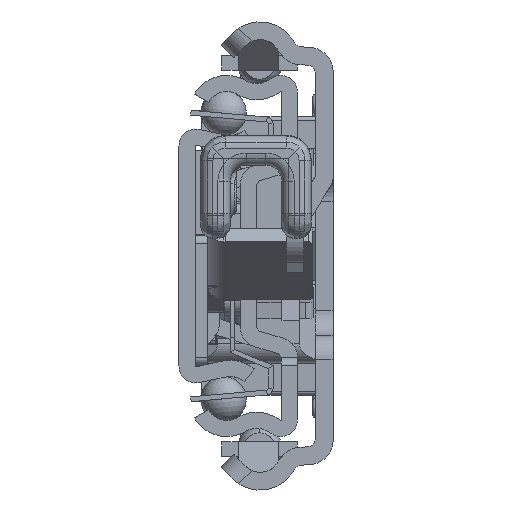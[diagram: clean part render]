
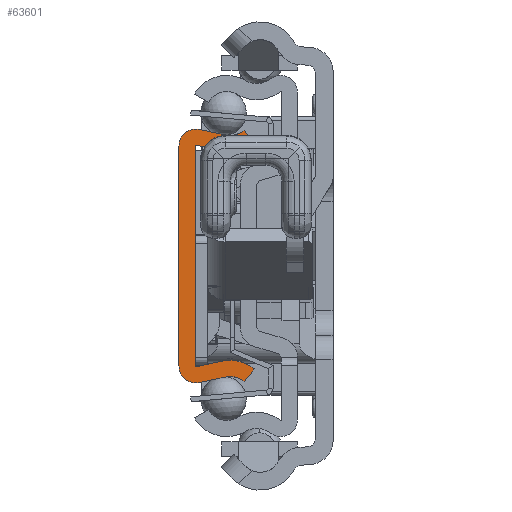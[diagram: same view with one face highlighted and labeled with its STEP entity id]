
A CAD part, left-side view. The second image highlights one B-rep face of the part: STEP entity #63601.
In plain terms, the highlighted planar face has unit normal (-1, 0, 0).
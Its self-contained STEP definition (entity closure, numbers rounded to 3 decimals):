
#58006=CARTESIAN_POINT('',(0.,-6.29,-17.65));
#58007=DIRECTION('',(-1.,0.,0.));
#58008=DIRECTION('',(0.,-0.629,0.778));
#58009=AXIS2_PLACEMENT_3D('',#58006,#58007,#58008);
#58011=DIRECTION('',(0.,0.977,-0.213));
#58012=VECTOR('',#58011,3.218);
#58013=CARTESIAN_POINT('',(0.,-5.692,-14.915));
#58014=LINE('',#58013,#58012);
#58015=CARTESIAN_POINT('',(0.,-2.1,-13.55));
#58016=DIRECTION('',(1.,0.,0.));
#58017=DIRECTION('',(0.,-0.213,-0.977));
#58018=AXIS2_PLACEMENT_3D('',#58015,#58016,#58017);
#58020=DIRECTION('',(0.,0.,1.));
#58021=VECTOR('',#58020,27.1);
#58022=CARTESIAN_POINT('',(0.,0.,-13.55));
#58023=LINE('',#58022,#58021);
#58024=CARTESIAN_POINT('',(0.,-2.1,13.55));
#58025=DIRECTION('',(1.,0.,0.));
#58026=DIRECTION('',(0.,1.,0.));
#58027=AXIS2_PLACEMENT_3D('',#58024,#58025,#58026);
#58029=DIRECTION('',(0.,-0.977,-0.213));
#58030=VECTOR('',#58029,3.218);
#58031=CARTESIAN_POINT('',(0.,-2.548,15.602));
#58032=LINE('',#58031,#58030);
#58033=CARTESIAN_POINT('',(0.,-6.29,17.65));
#58034=DIRECTION('',(-1.,0.,0.));
#58035=DIRECTION('',(0.,0.213,-0.977));
#58036=AXIS2_PLACEMENT_3D('',#58033,#58034,#58035);
#58038=DIRECTION('',(0.,-0.629,-0.778));
#58039=VECTOR('',#58038,2.);
#58040=CARTESIAN_POINT('',(0.,-8.05,15.472));
#58041=LINE('',#58040,#58039);
#58042=CARTESIAN_POINT('',(0.,-6.29,17.65));
#58043=DIRECTION('',(1.,0.,0.));
#58044=DIRECTION('',(0.,-0.629,-0.778));
#58045=AXIS2_PLACEMENT_3D('',#58042,#58043,#58044);
#58047=DIRECTION('',(0.,0.977,0.213));
#58048=VECTOR('',#58047,3.218);
#58049=CARTESIAN_POINT('',(0.,-5.265,12.961));
#58050=LINE('',#58049,#58048);
#58051=CARTESIAN_POINT('',(0.,-2.1,13.55));
#58052=DIRECTION('',(-1.,0.,0.));
#58053=DIRECTION('',(0.,-0.213,0.977));
#58054=AXIS2_PLACEMENT_3D('',#58051,#58052,#58053);
#58056=DIRECTION('',(0.,0.,-1.));
#58057=VECTOR('',#58056,27.1);
#58058=CARTESIAN_POINT('',(0.,-2.,13.55));
#58059=LINE('',#58058,#58057);
#58060=CARTESIAN_POINT('',(0.,-2.1,-13.55));
#58061=DIRECTION('',(-1.,0.,0.));
#58062=DIRECTION('',(0.,1.,0.));
#58063=AXIS2_PLACEMENT_3D('',#58060,#58061,#58062);
#58065=DIRECTION('',(0.,-0.977,0.213));
#58066=VECTOR('',#58065,3.218);
#58067=CARTESIAN_POINT('',(0.,-2.121,-13.648));
#58068=LINE('',#58067,#58066);
#58069=CARTESIAN_POINT('',(0.,-6.29,-17.65));
#58070=DIRECTION('',(1.,0.,0.));
#58071=DIRECTION('',(0.,0.213,0.977));
#58072=AXIS2_PLACEMENT_3D('',#58069,#58070,#58071);
#58074=DIRECTION('',(0.,0.629,-0.778));
#58075=VECTOR('',#58074,2.);
#58076=CARTESIAN_POINT('',(0.,-9.307,-13.917));
#58077=LINE('',#58076,#58075);
#62542=CARTESIAN_POINT('',(0.,-8.05,-15.472));
#62543=CARTESIAN_POINT('',(0.,-5.692,-14.915));
#62544=VERTEX_POINT('',#62542);
#62545=VERTEX_POINT('',#62543);
#62546=CARTESIAN_POINT('',(0.,-2.548,-15.602));
#62547=VERTEX_POINT('',#62546);
#62548=CARTESIAN_POINT('',(0.,0.,-13.55));
#62549=VERTEX_POINT('',#62548);
#62550=CARTESIAN_POINT('',(0.,0.,13.55));
#62551=VERTEX_POINT('',#62550);
#62552=CARTESIAN_POINT('',(0.,-2.548,15.602));
#62553=VERTEX_POINT('',#62552);
#62554=CARTESIAN_POINT('',(0.,-5.692,14.915));
#62555=VERTEX_POINT('',#62554);
#62556=CARTESIAN_POINT('',(0.,-8.05,15.472));
#62557=VERTEX_POINT('',#62556);
#62558=CARTESIAN_POINT('',(0.,-9.307,13.917));
#62559=VERTEX_POINT('',#62558);
#62560=CARTESIAN_POINT('',(0.,-5.265,12.961));
#62561=VERTEX_POINT('',#62560);
#62562=CARTESIAN_POINT('',(0.,-2.121,13.648));
#62563=VERTEX_POINT('',#62562);
#62564=CARTESIAN_POINT('',(0.,-2.,13.55));
#62565=VERTEX_POINT('',#62564);
#62566=CARTESIAN_POINT('',(0.,-2.,-13.55));
#62567=VERTEX_POINT('',#62566);
#62568=CARTESIAN_POINT('',(0.,-2.121,-13.648));
#62569=VERTEX_POINT('',#62568);
#62570=CARTESIAN_POINT('',(0.,-5.265,-12.961));
#62571=VERTEX_POINT('',#62570);
#62572=CARTESIAN_POINT('',(0.,-9.307,-13.917));
#62573=VERTEX_POINT('',#62572);
#63562=CARTESIAN_POINT('',(0.,0.,0.));
#63563=DIRECTION('',(1.,0.,0.));
#63564=DIRECTION('',(0.,-1.,0.));
#63565=AXIS2_PLACEMENT_3D('',#63562,#63563,#63564);
#63566=PLANE('',#63565);
#63568=ORIENTED_EDGE('',*,*,#63567,.T.);
#63570=ORIENTED_EDGE('',*,*,#63569,.T.);
#63572=ORIENTED_EDGE('',*,*,#63571,.T.);
#63574=ORIENTED_EDGE('',*,*,#63573,.T.);
#63576=ORIENTED_EDGE('',*,*,#63575,.T.);
#63578=ORIENTED_EDGE('',*,*,#63577,.T.);
#63580=ORIENTED_EDGE('',*,*,#63579,.T.);
#63582=ORIENTED_EDGE('',*,*,#63581,.T.);
#63584=ORIENTED_EDGE('',*,*,#63583,.T.);
#63586=ORIENTED_EDGE('',*,*,#63585,.T.);
#63588=ORIENTED_EDGE('',*,*,#63587,.T.);
#63590=ORIENTED_EDGE('',*,*,#63589,.T.);
#63592=ORIENTED_EDGE('',*,*,#63591,.T.);
#63594=ORIENTED_EDGE('',*,*,#63593,.T.);
#63596=ORIENTED_EDGE('',*,*,#63595,.T.);
#63598=ORIENTED_EDGE('',*,*,#63597,.T.);
#63599=EDGE_LOOP('',(#63568,#63570,#63572,#63574,#63576,#63578,#63580,#63582,
#63584,#63586,#63588,#63590,#63592,#63594,#63596,#63598));
#63600=FACE_OUTER_BOUND('',#63599,.F.);
#58010=CIRCLE('',#58009,2.8);
#58019=CIRCLE('',#58018,2.1);
#58028=CIRCLE('',#58027,2.1);
#58037=CIRCLE('',#58036,2.8);
#58046=CIRCLE('',#58045,4.8);
#58055=CIRCLE('',#58054,0.1);
#58064=CIRCLE('',#58063,0.1);
#58073=CIRCLE('',#58072,4.8);
#63567=EDGE_CURVE('',#62544,#62545,#58010,.T.);
#63569=EDGE_CURVE('',#62545,#62547,#58014,.T.);
#63571=EDGE_CURVE('',#62547,#62549,#58019,.T.);
#63573=EDGE_CURVE('',#62549,#62551,#58023,.T.);
#63575=EDGE_CURVE('',#62551,#62553,#58028,.T.);
#63577=EDGE_CURVE('',#62553,#62555,#58032,.T.);
#63579=EDGE_CURVE('',#62555,#62557,#58037,.T.);
#63581=EDGE_CURVE('',#62557,#62559,#58041,.T.);
#63583=EDGE_CURVE('',#62559,#62561,#58046,.T.);
#63585=EDGE_CURVE('',#62561,#62563,#58050,.T.);
#63587=EDGE_CURVE('',#62563,#62565,#58055,.T.);
#63589=EDGE_CURVE('',#62565,#62567,#58059,.T.);
#63591=EDGE_CURVE('',#62567,#62569,#58064,.T.);
#63593=EDGE_CURVE('',#62569,#62571,#58068,.T.);
#63595=EDGE_CURVE('',#62571,#62573,#58073,.T.);
#63597=EDGE_CURVE('',#62573,#62544,#58077,.T.);
#63601=ADVANCED_FACE('',(#63600),#63566,.F.);
